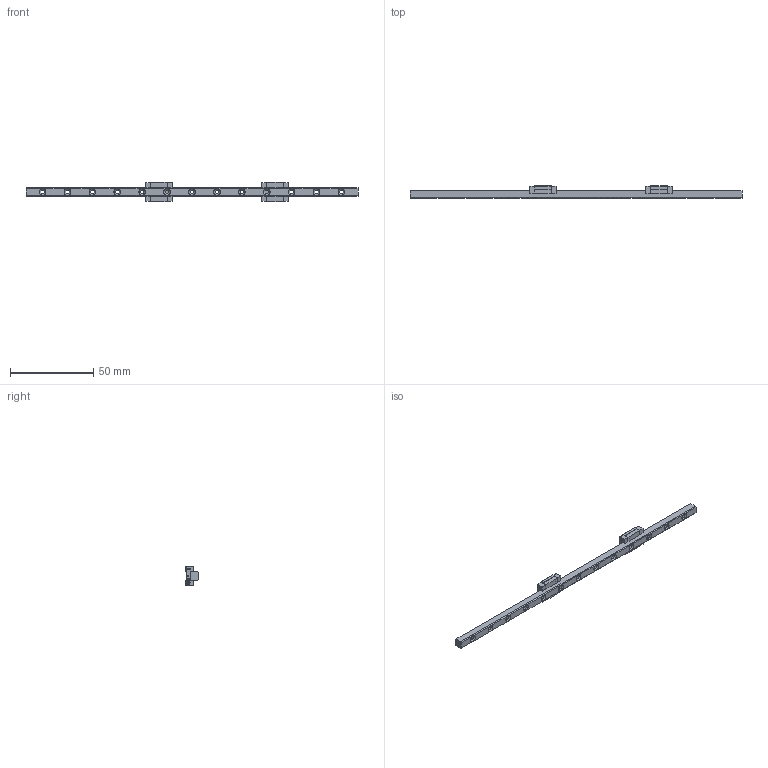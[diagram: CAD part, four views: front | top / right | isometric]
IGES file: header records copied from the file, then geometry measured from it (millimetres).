
Start section: SolidWorks IGES file using analytic representation for surfaces
Global section: file name: H:\直得科技CAD圖檔\3D目錄檔\MR-M Series\5MN.IGS; native system: SolidWorks 2005 by SolidWorks Corporation; preprocessor: SolidWorks 2005 by SolidWorks Corporation; author: cpc; date: 050331.121449; units: millimetre
Bounding box: 200 x 7.5 x 12 mm (x, y, z)
Surface area: 5134.8 mm2 (no closed solid volume)
Topology: 0 solids, 0 shells, 516 faces, 6782 edges, 6764 vertices
Faces by surface type: bspline 340, revolution 176
